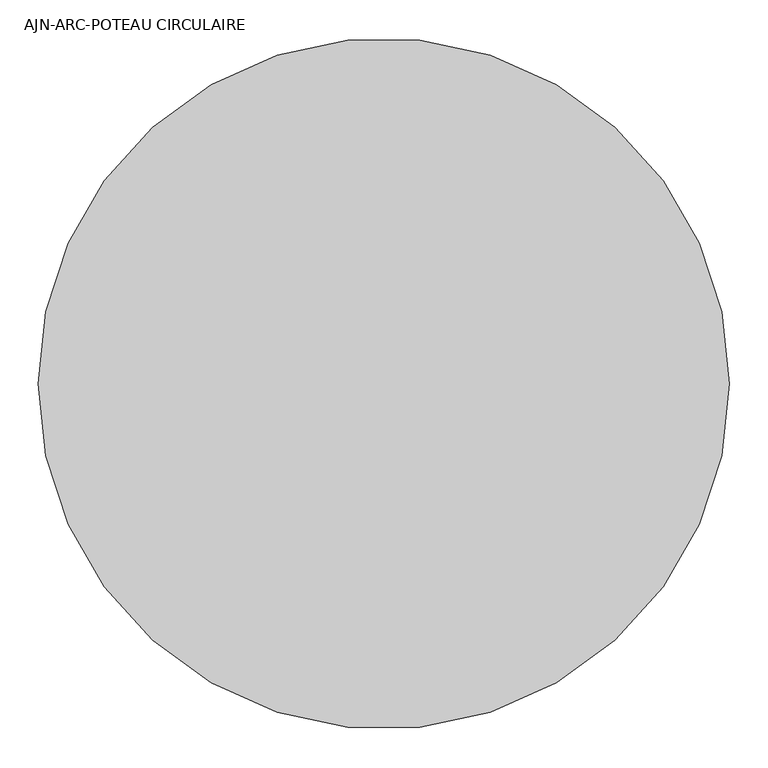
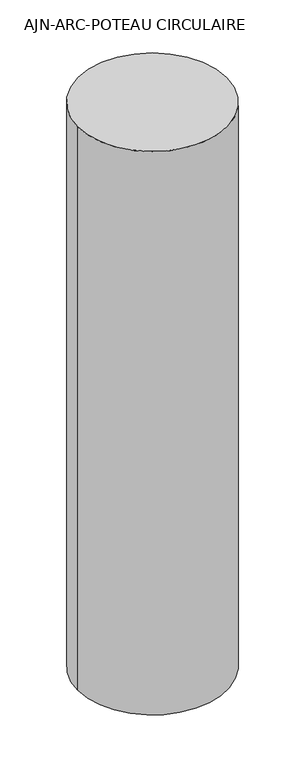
"""IFC4 building model written with IfcOpenShell, lengths in millimetres: column geometry, AJN-ARC-POTEAU CIRCULAIRE : ø90."""

from ifc_helpers import new_model, si_unit, point, frame, origin, origin_2d, place, context, project, spatial, circle_curve, trimmed, segment, composite_curve, outline, extrude, source, transform, mapped, element, save


def ajn_arc_poteau_circulaire_8d925d50(model_context):
    return source(origin(), model_context, "Body", "SweptSolid", [
        extrude(outline(composite_curve([segment(trimmed(circle_curve(origin_2d(), 450.0), [point((-450.0, 0.0))], [point((450.0, 0.0))], False, "CARTESIAN"), True, "CONTINUOUS"), segment(trimmed(circle_curve(origin_2d(), 450.0), [point((450.0, 0.0))], [point((-450.0, 0.0))], False, "CARTESIAN"), True, "CONTINUOUS")], self_intersect=False)), frame((0.0, 0.0, 31599.9999686), z_axis=(0.0, 0.0, 1.0), x_axis=(1.0, 0.0, 0.0)), (0.0, 0.0, 1.0), 3600.0),
    ])


if __name__ == "__main__":
    model = new_model("IFC4")
    model_context = context("Model", 3, world=origin())
    ifc_project = project(units=[si_unit("LENGTHUNIT", "METRE", prefix="MILLI")], contexts=[model_context])
    site = spatial("IfcSite", under=ifc_project)
    building = spatial("IfcBuilding", under=site)
    placement = place(None, origin())
    ajn_arc_poteau_circulaire_shape = ajn_arc_poteau_circulaire_8d925d50(model_context)
    element("IfcColumn", 1, ObjectType="AJN-ARC-POTEAU CIRCULAIRE : ø90", at=placement, inside=building, context=model_context, shape_type="MappedRepresentation", body=[
        mapped(ajn_arc_poteau_circulaire_shape, transform((0.0, 0.0, 0.0), x_axis=(1.0, 0.0, 0.0), y_axis=(0.0, 1.0, 0.0), z_axis=(0.0, 0.0, 1.0))),
    ])
    save(model, "model.ifc")
